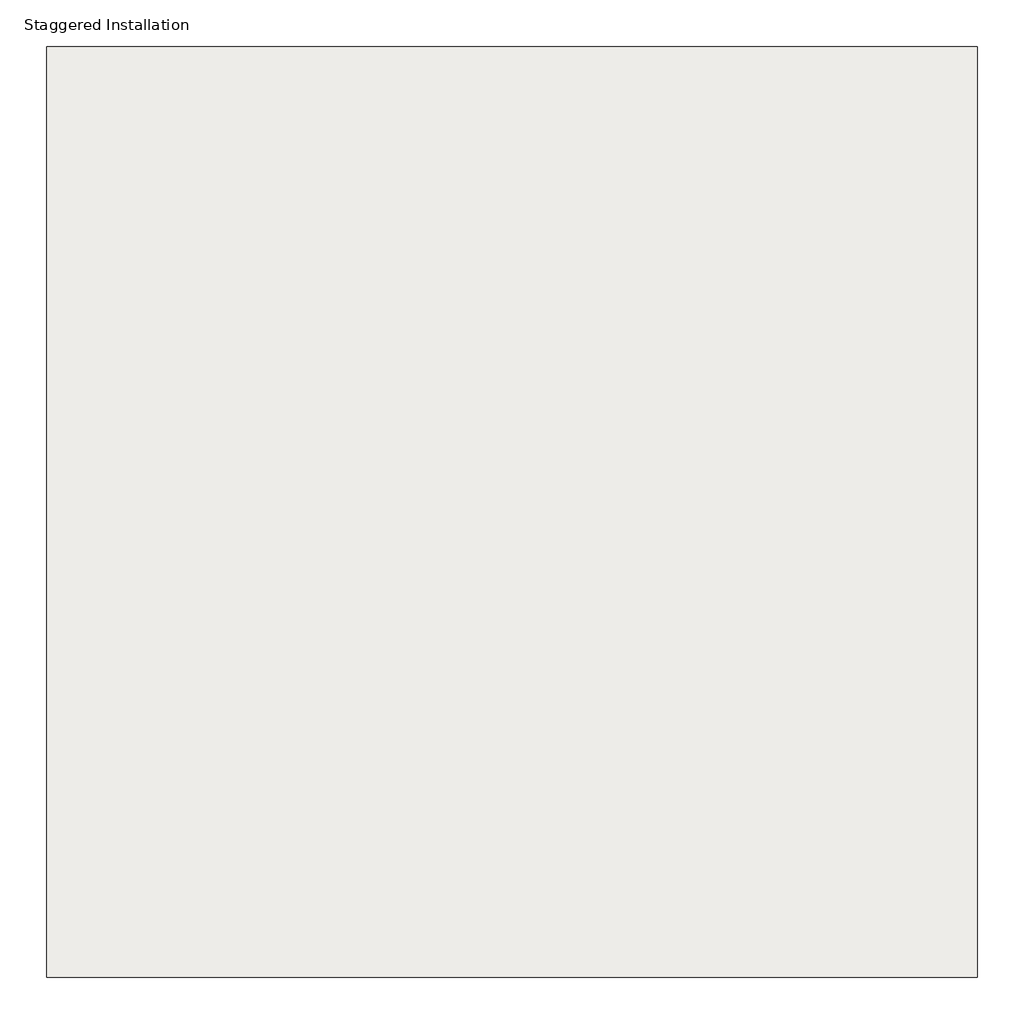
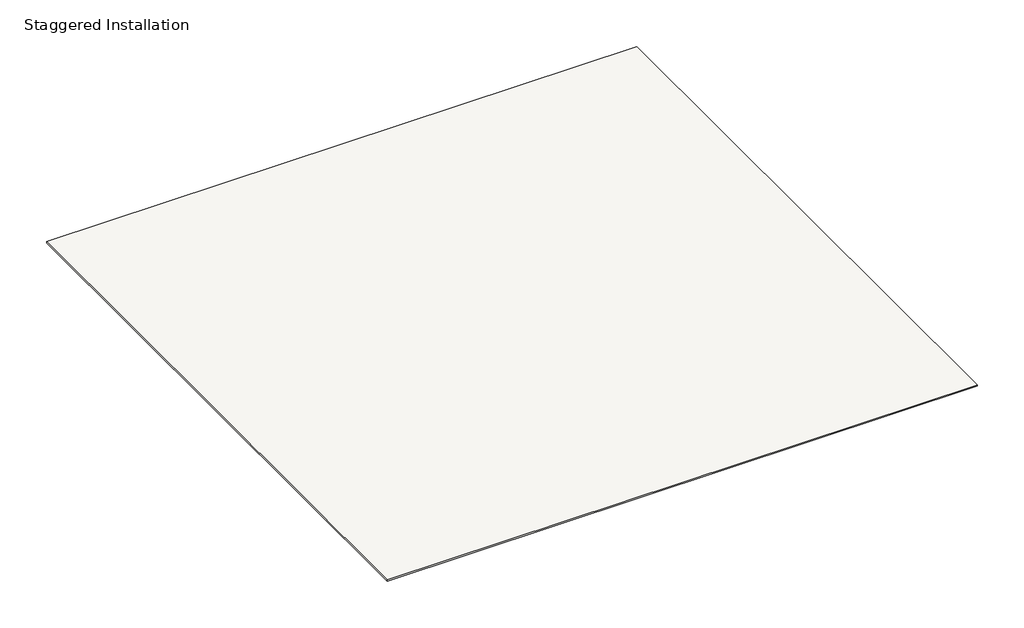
# One storey: 1 slab.
"""IFC4 building model written with IfcOpenShell, lengths in millimetres."""

from ifc_helpers import new_model, si_unit, frame, origin, place, context, project, spatial, polyline, outline, extrude, element, save

model = new_model("IFC4")

# Units and contexts
model_context = context("Model", 3, world=origin())
ifc_project = project(units=[si_unit("LENGTHUNIT", "METRE", prefix="MILLI")], contexts=[model_context])

# Site, building, storey
site = spatial("IfcSite", under=ifc_project)
building = spatial("IfcBuilding", under=site)
storey = spatial("IfcBuildingStorey", under=building, Name="Staggered Installation", Elevation=3048.0)

# Slab
placement = place(None, origin())
element("IfcSlab", 1, ObjectType="Armstrong_VCT_Striations_T3600 azure (staggered)", at=placement, inside=storey, context=model_context, shape_type="SweptSolid", body=[
    extrude(outline(polyline([(3311.6055838, 2884.7695431), (3311.6055838, 1360.7695431), (1787.6055838, 1360.7695431), (1787.6055838, 2884.7695431), (3311.6055838, 2884.7695431)])), frame((0.0, 0.0, 3044.825), z_axis=(0.0, 0.0, 1.0), x_axis=(1.0, 0.0, 0.0)), (0.0, 0.0, 1.0), 3.175),
])

save(model, "model.ifc")
